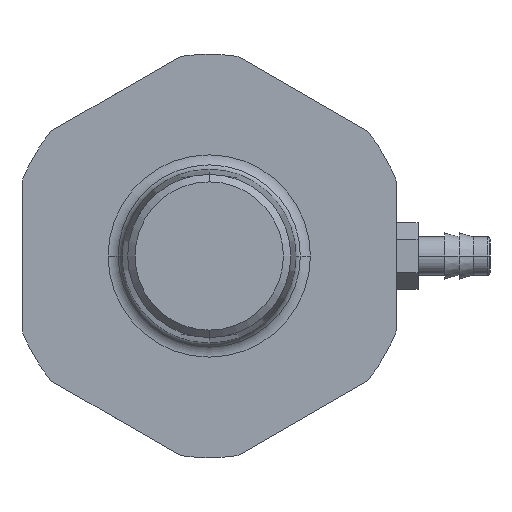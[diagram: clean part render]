
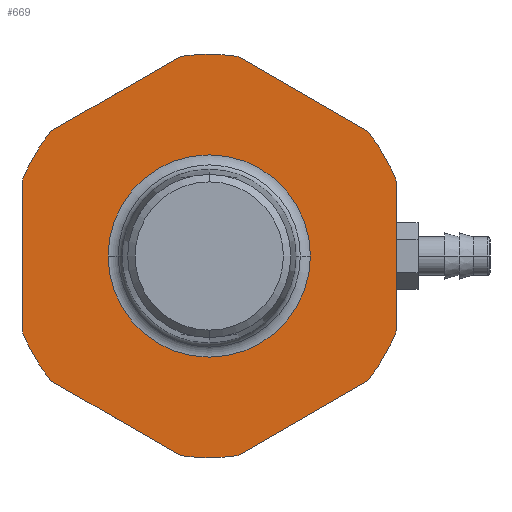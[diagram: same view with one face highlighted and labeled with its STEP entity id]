
A CAD part, left-side view. The second image highlights one B-rep face of the part: STEP entity #669.
In plain terms, the highlighted planar face has unit normal (-1, 0, 0).
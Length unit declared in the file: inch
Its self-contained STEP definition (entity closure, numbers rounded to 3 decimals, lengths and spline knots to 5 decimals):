
#203=CARTESIAN_POINT('',(-3.375,0.,0.));
#204=DIRECTION('',(-1.,0.,0.));
#205=DIRECTION('',(0.,0.143,-0.99));
#206=AXIS2_PLACEMENT_3D('',#203,#204,#205);
#208=DIRECTION('',(0.,-0.866,-0.5));
#209=VECTOR('',#208,0.64952);
#210=CARTESIAN_POINT('',(-3.375,0.6875,-0.54127));
#211=LINE('',#210,#209);
#212=CARTESIAN_POINT('',(-3.375,0.,0.));
#213=DIRECTION('',(-1.,0.,0.));
#214=DIRECTION('',(0.,0.866,-0.5));
#215=AXIS2_PLACEMENT_3D('',#212,#213,#214);
#217=CARTESIAN_POINT('',(-3.375,0.,0.));
#218=DIRECTION('',(-1.,0.,0.));
#219=DIRECTION('',(0.,0.929,-0.371));
#220=AXIS2_PLACEMENT_3D('',#217,#218,#219);
#222=DIRECTION('',(0.,0.,-1.));
#223=VECTOR('',#222,0.64952);
#224=CARTESIAN_POINT('',(-3.375,0.8125,0.32476));
#225=LINE('',#224,#223);
#226=CARTESIAN_POINT('',(-3.375,0.,0.));
#227=DIRECTION('',(-1.,0.,0.));
#228=DIRECTION('',(0.,0.866,0.5));
#229=AXIS2_PLACEMENT_3D('',#226,#227,#228);
#231=CARTESIAN_POINT('',(-3.375,0.,0.));
#232=DIRECTION('',(-1.,0.,0.));
#233=DIRECTION('',(0.,0.786,0.619));
#234=AXIS2_PLACEMENT_3D('',#231,#232,#233);
#236=DIRECTION('',(0.,0.866,-0.5));
#237=VECTOR('',#236,0.64952);
#238=CARTESIAN_POINT('',(-3.375,0.125,0.86603));
#239=LINE('',#238,#237);
#240=CARTESIAN_POINT('',(-3.375,0.,0.));
#241=DIRECTION('',(-1.,0.,0.));
#242=DIRECTION('',(0.,0.,1.));
#243=AXIS2_PLACEMENT_3D('',#240,#241,#242);
#245=CARTESIAN_POINT('',(-3.375,0.,0.));
#246=DIRECTION('',(-1.,0.,0.));
#247=DIRECTION('',(0.,-0.143,0.99));
#248=AXIS2_PLACEMENT_3D('',#245,#246,#247);
#250=DIRECTION('',(0.,0.866,0.5));
#251=VECTOR('',#250,0.64952);
#252=CARTESIAN_POINT('',(-3.375,-0.6875,0.54127));
#253=LINE('',#252,#251);
#254=CARTESIAN_POINT('',(-3.375,0.,0.));
#255=DIRECTION('',(-1.,0.,0.));
#256=DIRECTION('',(0.,-0.866,0.5));
#257=AXIS2_PLACEMENT_3D('',#254,#255,#256);
#259=CARTESIAN_POINT('',(-3.375,0.,0.));
#260=DIRECTION('',(-1.,0.,0.));
#261=DIRECTION('',(0.,-0.929,0.371));
#262=AXIS2_PLACEMENT_3D('',#259,#260,#261);
#264=DIRECTION('',(0.,0.,1.));
#265=VECTOR('',#264,0.64952);
#266=CARTESIAN_POINT('',(-3.375,-0.8125,-0.32476));
#267=LINE('',#266,#265);
#268=CARTESIAN_POINT('',(-3.375,0.,0.));
#269=DIRECTION('',(-1.,0.,0.));
#270=DIRECTION('',(0.,-0.866,-0.5));
#271=AXIS2_PLACEMENT_3D('',#268,#269,#270);
#273=CARTESIAN_POINT('',(-3.375,0.,0.));
#274=DIRECTION('',(-1.,0.,0.));
#275=DIRECTION('',(0.,-0.786,-0.619));
#276=AXIS2_PLACEMENT_3D('',#273,#274,#275);
#278=DIRECTION('',(0.,-0.866,0.5));
#279=VECTOR('',#278,0.64952);
#280=CARTESIAN_POINT('',(-3.375,-0.125,-0.86603));
#281=LINE('',#280,#279);
#282=CARTESIAN_POINT('',(-3.375,0.,0.));
#283=DIRECTION('',(-1.,0.,0.));
#284=DIRECTION('',(0.,0.,-1.));
#285=AXIS2_PLACEMENT_3D('',#282,#283,#284);
#287=CARTESIAN_POINT('',(-3.375,0.,0.));
#288=DIRECTION('',(1.,0.,0.));
#289=DIRECTION('',(0.,0.,1.));
#290=AXIS2_PLACEMENT_3D('',#287,#288,#289);
#292=CARTESIAN_POINT('',(-3.375,0.,0.));
#293=DIRECTION('',(1.,0.,0.));
#294=DIRECTION('',(0.,1.,0.));
#295=AXIS2_PLACEMENT_3D('',#292,#293,#294);
#297=CARTESIAN_POINT('',(-3.375,0.,0.));
#298=DIRECTION('',(1.,0.,0.));
#299=DIRECTION('',(0.,-1.,0.));
#300=AXIS2_PLACEMENT_3D('',#297,#298,#299);
#520=CARTESIAN_POINT('',(-3.375,0.,-0.875));
#521=CARTESIAN_POINT('',(-3.375,-0.125,-0.86603));
#522=VERTEX_POINT('',#520);
#523=VERTEX_POINT('',#521);
#524=CARTESIAN_POINT('',(-3.375,0.125,-0.86603));
#525=VERTEX_POINT('',#524);
#530=CARTESIAN_POINT('',(-3.375,-0.6875,-0.54127));
#531=VERTEX_POINT('',#530);
#532=CARTESIAN_POINT('',(-3.375,0.6875,-0.54127));
#533=VERTEX_POINT('',#532);
#538=CARTESIAN_POINT('',(-3.375,-0.75777,-0.4375));
#539=CARTESIAN_POINT('',(-3.375,-0.8125,-0.32476));
#540=VERTEX_POINT('',#538);
#541=VERTEX_POINT('',#539);
#542=CARTESIAN_POINT('',(-3.375,0.75777,-0.4375));
#543=VERTEX_POINT('',#542);
#544=CARTESIAN_POINT('',(-3.375,0.8125,-0.32476));
#545=VERTEX_POINT('',#544);
#552=CARTESIAN_POINT('',(-3.375,-0.8125,0.32476));
#553=VERTEX_POINT('',#552);
#554=CARTESIAN_POINT('',(-3.375,0.8125,0.32476));
#555=VERTEX_POINT('',#554);
#562=CARTESIAN_POINT('',(-3.375,-0.75777,0.4375));
#563=CARTESIAN_POINT('',(-3.375,-0.6875,0.54127));
#564=VERTEX_POINT('',#562);
#565=VERTEX_POINT('',#563);
#566=CARTESIAN_POINT('',(-3.375,0.75777,0.4375));
#567=VERTEX_POINT('',#566);
#568=CARTESIAN_POINT('',(-3.375,0.6875,0.54127));
#569=VERTEX_POINT('',#568);
#576=CARTESIAN_POINT('',(-3.375,-0.125,0.86603));
#577=VERTEX_POINT('',#576);
#578=CARTESIAN_POINT('',(-3.375,0.125,0.86603));
#579=VERTEX_POINT('',#578);
#586=CARTESIAN_POINT('',(-3.375,0.,0.875));
#587=VERTEX_POINT('',#586);
#592=CARTESIAN_POINT('',(-3.375,0.43896,0.));
#594=VERTEX_POINT('',#592);
#598=CARTESIAN_POINT('',(-3.375,-0.43896,0.));
#599=VERTEX_POINT('',#598);
#604=CARTESIAN_POINT('',(-3.375,0.,0.43896));
#605=VERTEX_POINT('',#604);
#618=CARTESIAN_POINT('',(-3.375,0.,0.));
#619=DIRECTION('',(-1.,0.,0.));
#620=DIRECTION('',(0.,0.,1.));
#621=AXIS2_PLACEMENT_3D('',#618,#619,#620);
#622=PLANE('',#621);
#624=ORIENTED_EDGE('',*,*,#623,.F.);
#626=ORIENTED_EDGE('',*,*,#625,.F.);
#628=ORIENTED_EDGE('',*,*,#627,.F.);
#630=ORIENTED_EDGE('',*,*,#629,.F.);
#632=ORIENTED_EDGE('',*,*,#631,.F.);
#634=ORIENTED_EDGE('',*,*,#633,.F.);
#636=ORIENTED_EDGE('',*,*,#635,.F.);
#638=ORIENTED_EDGE('',*,*,#637,.F.);
#640=ORIENTED_EDGE('',*,*,#639,.F.);
#642=ORIENTED_EDGE('',*,*,#641,.F.);
#644=ORIENTED_EDGE('',*,*,#643,.F.);
#646=ORIENTED_EDGE('',*,*,#645,.F.);
#648=ORIENTED_EDGE('',*,*,#647,.F.);
#650=ORIENTED_EDGE('',*,*,#649,.F.);
#652=ORIENTED_EDGE('',*,*,#651,.F.);
#654=ORIENTED_EDGE('',*,*,#653,.F.);
#656=ORIENTED_EDGE('',*,*,#655,.F.);
#658=ORIENTED_EDGE('',*,*,#657,.F.);
#659=EDGE_LOOP('',(#624,#626,#628,#630,#632,#634,#636,#638,#640,#642,#644,#646,
#648,#650,#652,#654,#656,#658));
#660=FACE_OUTER_BOUND('',#659,.F.);
#662=ORIENTED_EDGE('',*,*,#661,.F.);
#664=ORIENTED_EDGE('',*,*,#663,.F.);
#666=ORIENTED_EDGE('',*,*,#665,.F.);
#667=EDGE_LOOP('',(#662,#664,#666));
#668=FACE_BOUND('',#667,.F.);
#207=CIRCLE('',#206,0.875);
#216=CIRCLE('',#215,0.875);
#221=CIRCLE('',#220,0.875);
#230=CIRCLE('',#229,0.875);
#235=CIRCLE('',#234,0.875);
#244=CIRCLE('',#243,0.875);
#249=CIRCLE('',#248,0.875);
#258=CIRCLE('',#257,0.875);
#263=CIRCLE('',#262,0.875);
#272=CIRCLE('',#271,0.875);
#277=CIRCLE('',#276,0.875);
#286=CIRCLE('',#285,0.875);
#291=CIRCLE('',#290,0.43896);
#296=CIRCLE('',#295,0.43896);
#301=CIRCLE('',#300,0.43896);
#623=EDGE_CURVE('',#525,#522,#207,.T.);
#625=EDGE_CURVE('',#533,#525,#211,.T.);
#627=EDGE_CURVE('',#543,#533,#216,.T.);
#629=EDGE_CURVE('',#545,#543,#221,.T.);
#631=EDGE_CURVE('',#555,#545,#225,.T.);
#633=EDGE_CURVE('',#567,#555,#230,.T.);
#635=EDGE_CURVE('',#569,#567,#235,.T.);
#637=EDGE_CURVE('',#579,#569,#239,.T.);
#639=EDGE_CURVE('',#587,#579,#244,.T.);
#641=EDGE_CURVE('',#577,#587,#249,.T.);
#643=EDGE_CURVE('',#565,#577,#253,.T.);
#645=EDGE_CURVE('',#564,#565,#258,.T.);
#647=EDGE_CURVE('',#553,#564,#263,.T.);
#649=EDGE_CURVE('',#541,#553,#267,.T.);
#651=EDGE_CURVE('',#540,#541,#272,.T.);
#653=EDGE_CURVE('',#531,#540,#277,.T.);
#655=EDGE_CURVE('',#523,#531,#281,.T.);
#657=EDGE_CURVE('',#522,#523,#286,.T.);
#661=EDGE_CURVE('',#605,#599,#291,.T.);
#663=EDGE_CURVE('',#594,#605,#296,.T.);
#665=EDGE_CURVE('',#599,#594,#301,.T.);
#669=ADVANCED_FACE('',(#660,#668),#622,.T.);
